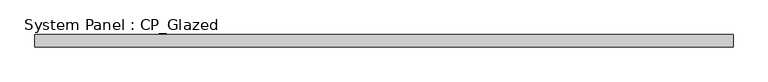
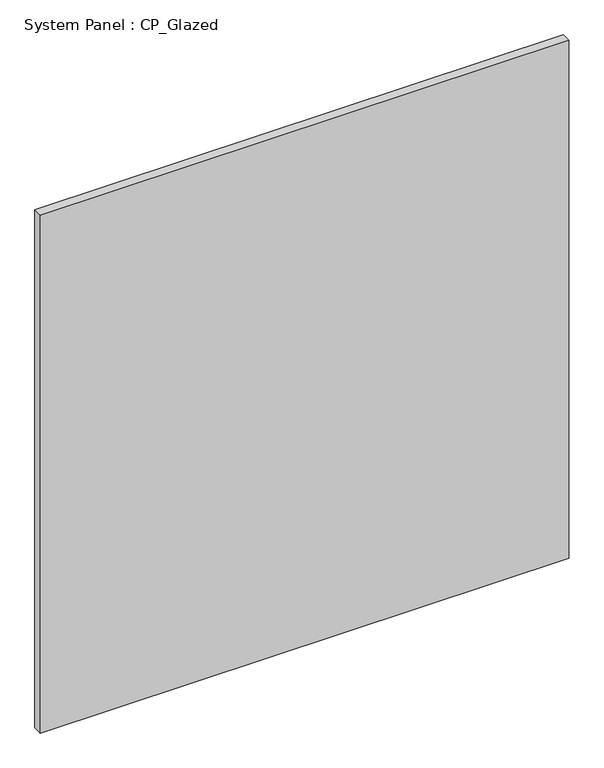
"""IFC4 building model written with IfcOpenShell, lengths in millimetres: plate geometry, System Panel : CP_Glazed."""

from ifc_helpers import new_model, si_unit, origin, origin_with_axes, place, context, project, spatial, polyline, outline, extrude, source, transform, mapped, element, save


def system_panel_cp_glazed_3327517a(model_context):
    return source(origin(), model_context, "Body", "SweptSolid", [
        extrude(outline(polyline([(713.8458333, 19.05), (-713.8458333, 19.05), (-713.8458333, 44.45), (713.8458333, 44.45), (713.8458333, 19.05)])), origin_with_axes(), (0.0, 0.0, 1.0), 1479.55),
    ])


if __name__ == "__main__":
    model = new_model("IFC4")
    model_context = context("Model", 3, world=origin())
    ifc_project = project(units=[si_unit("LENGTHUNIT", "METRE", prefix="MILLI")], contexts=[model_context])
    site = spatial("IfcSite", under=ifc_project)
    building = spatial("IfcBuilding", under=site)
    placement = place(None, origin())
    system_panel_cp_glazed_shape = system_panel_cp_glazed_3327517a(model_context)
    element("IfcPlate", 1, ObjectType="System Panel : CP_Glazed", at=placement, inside=building, context=model_context, shape_type="MappedRepresentation", body=[
        mapped(system_panel_cp_glazed_shape, transform((0.0, 0.0, 0.0), x_axis=(1.0, 0.0, 0.0), y_axis=(0.0, 1.0, 0.0), z_axis=(0.0, 0.0, 1.0))),
    ])
    save(model, "model.ifc")
